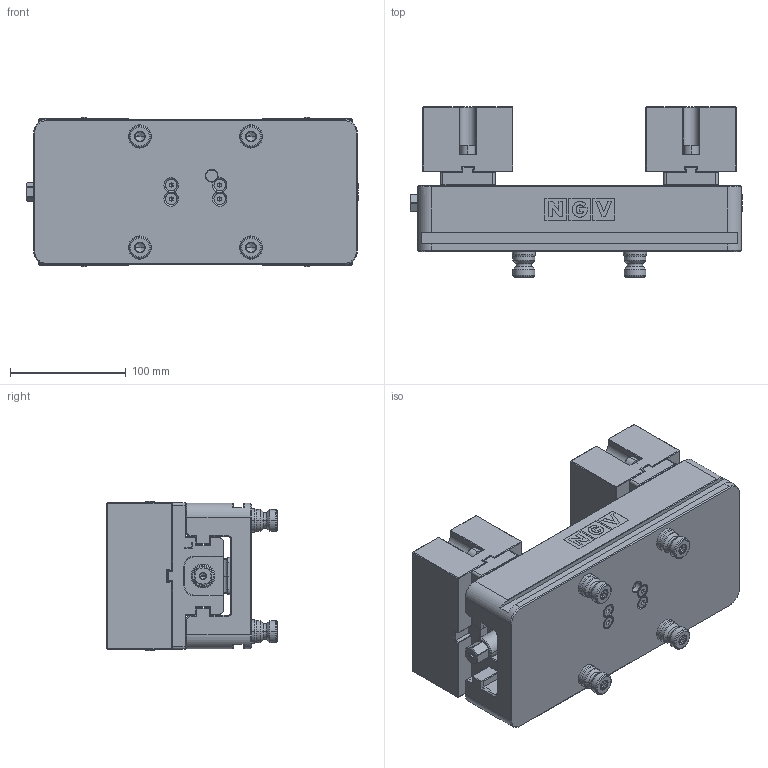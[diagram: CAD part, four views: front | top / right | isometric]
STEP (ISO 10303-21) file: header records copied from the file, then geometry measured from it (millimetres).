
FILE_DESCRIPTION((''),'2;1');
FILE_NAME('SJV126L_00_0_ASM','2025-06-26T',('tibi'),(''),'PRO/ENGINEER BY PARAMETRIC TECHNOLOGY CORPORATION, 2010280','PRO/ENGINEER BY PARAMETRIC TECHNOLOGY CORPORATION, 2010280','');
FILE_SCHEMA(('CONFIG_CONTROL_DESIGN'));
Length unit declared in the file: millimetre
Products named in the file (12): CORP_2; SEMICUPLA; SURUB_2; INEL_O_15X1SI8_INST; SURUB_M5X20; PIN_CENTRARE_20; STIFT_FILETAT_M10X24; BJSM126-1-01-0_SANIE; BJSM126-1-02-0_SANIE_STANGA; BJSM126-1-03-0_BAC_MOALE_OTEL; SURUB_CAP_INBUS_M8X25; SJV126L_00_0_ASM
Assembly tree (26 placements, depth 2):
  SJV126L_00_0_ASM
    CORP_2
    SEMICUPLA  x2
    SURUB_2
    INEL_O_15X1SI8_INST  x2
    SURUB_M5X20  x4
    PIN_CENTRARE_20  x4
    STIFT_FILETAT_M10X24  x4
    BJSM126-1-01-0_SANIE
    BJSM126-1-02-0_SANIE_STANGA
    BJSM126-1-03-0_BAC_MOALE_OTEL  x2
    SURUB_CAP_INBUS_M8X25  x4
Bounding box: 287 x 147 x 129 mm (x, y, z)
Volume: 2762447.6 mm3; surface area: 368990 mm2
Topology: 26 solids, 54 shells, 1841 faces, 4540 edges, 2789 vertices
Faces by surface type: plane 1002, cylinder 368, cone 337, torus 84, extrusion 38, bspline 12
Entity records: 37190 total; most frequent: CARTESIAN_POINT 7707, DIRECTION 6025, ORIENTED_EDGE 6014, EDGE_CURVE 3041, VECTOR 2133, LINE 2095, AXIS2_PLACEMENT_3D 1946, VERTEX_POINT 1900
